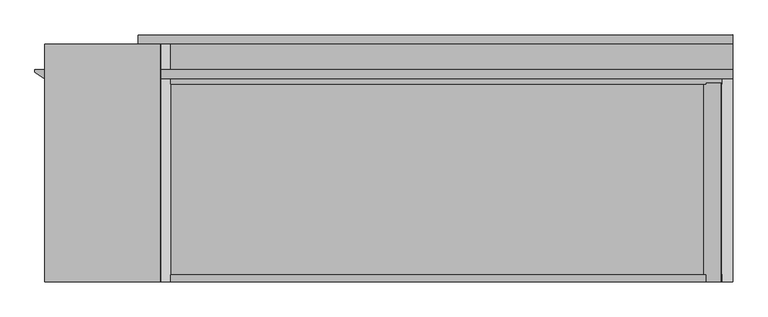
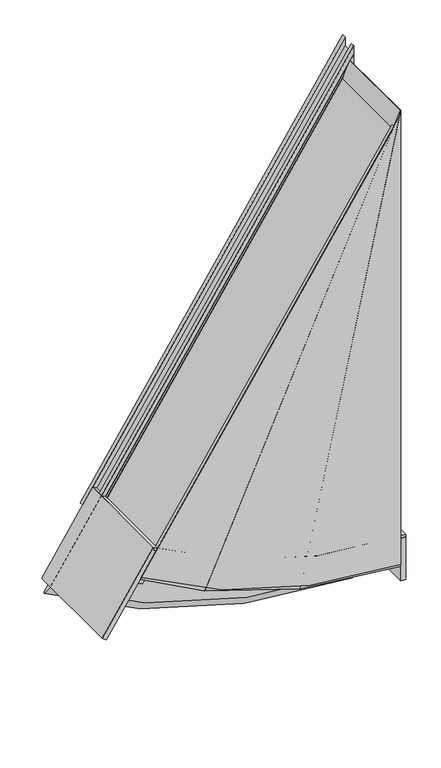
"""IFC4 building model written with IfcOpenShell, lengths in millimetres: proxy geometry, VIEWLINE^TABLE 5_OUT RADIUS TURRET-RT UNIT ASSEMBLY."""

from ifc_helpers import new_model, si_unit, point, frame, frame_2d, origin, place, context, project, spatial, polyline, circle_curve, trimmed, segment, composite_curve, outline, extrude, source, transform, mapped, element, save
from ifc_brep_helpers import plane_surface, cylinder_surface, revolved_surface, advanced_brep


def generic_models_eace9078(model_context):
    return source(origin(), model_context, "Body", "SolidModel", [
        extrude(outline(composite_curve([segment(polyline([(-151.8909718, 2400.3), (3618.4287601, 2400.3), (458.3714523, 343.7619644)]), True, "CONTINUOUS"), segment(trimmed(circle_curve(frame_2d((3746.8228674, 2438.4)), 3898.9), [point((458.3714523, 343.7619644))], [point((-151.8909718, 2400.3))], False, "CARTESIAN"), True, "CONTINUOUS")], self_intersect=False)), frame((0.0, -831.85, 0.0), z_axis=(0.0, 1.0, 0.0), x_axis=(0.0, 0.0, 1.0)), (0.0, 0.0, 1.0), 25.4),
        extrude(outline(composite_curve([segment(polyline([(-291.7771326, 2400.3), (-291.7771326, 2438.4), (63.8228674, 2438.4)]), True, "CONTINUOUS"), segment(trimmed(circle_curve(frame_2d((3746.8228674, 2438.4)), 3683.0), [point((63.8228674, 2438.4))], [point((64.0199417, 2400.3))], True, "CARTESIAN"), True, "CONTINUOUS"), segment(polyline([(64.0199417, 2400.3), (-291.7771326, 2400.3)]), True, "CONTINUOUS")], self_intersect=False)), frame((0.0, -831.85, 0.0), z_axis=(0.0, 1.0, 0.0), x_axis=(0.0, 0.0, 1.0)), (0.0, 0.0, 1.0), 831.85),
        extrude(outline(polyline([(-61.341, 33.401), (61.341, 33.401), (61.341, -33.401), (-61.341, -33.401), (-61.341, 33.401)])), frame((1253.2886081, -50.165, 130.8384344), z_axis=(0.3114421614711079, 0.0, 0.9502651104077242), x_axis=(-0.9502651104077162, 0.0, 0.3114421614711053)), (0.0, 0.0, 1.0), 1.5875),
        extrude(outline(polyline([(51.4350001, 21.59), (51.4350001, -21.59), (-51.435, -21.59), (-51.435, 21.59), (51.4350001, 21.59)])), frame((1253.2886081, -50.165, 130.8384344), z_axis=(0.3114421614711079, 0.0, 0.9502651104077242), x_axis=(-0.9502651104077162, 0.0, 0.3114421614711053)), (0.0, 0.0, 1.0), 74.549),
        extrude(outline(composite_curve([segment(polyline([(3676.9728674, 2438.4), (538.2082333, 395.7190528)]), True, "CONTINUOUS"), segment(trimmed(circle_curve(frame_2d((3746.8228674, 2438.4)), 3803.65), [point((538.2082333, 395.7190528))], [point((-56.8271326, 2438.4))], False, "CARTESIAN"), True, "CONTINUOUS"), segment(polyline([(-56.8271326, 2438.4), (3676.9728674, 2438.4)]), True, "CONTINUOUS")], self_intersect=False)), frame((0.0, -120.65, 0.0), z_axis=(0.0, 1.0, 0.0), x_axis=(0.0, 0.0, 1.0)), (0.0, 0.0, 1.0), 120.65),
        extrude(outline(composite_curve([segment(polyline([(3618.4287601, 2400.3), (458.3714523, 343.7619644)]), True, "CONTINUOUS"), segment(trimmed(circle_curve(frame_2d((3746.8228674, 2438.4)), 3898.9), [point((458.3714523, 343.7619644))], [point((-151.8909718, 2400.3))], False, "CARTESIAN"), True, "CONTINUOUS"), segment(polyline([(-151.8909718, 2400.3), (3618.4287601, 2400.3)]), True, "CONTINUOUS")], self_intersect=False)), frame((0.0, -139.7, 0.0), z_axis=(0.0, 1.0, 0.0), x_axis=(0.0, 0.0, 1.0)), (0.0, 0.0, 1.0), 19.05),
        extrude(outline(polyline([(-61.3409999, 33.401), (61.341, 33.401), (61.341, -33.401), (-61.3409999, -33.401), (-61.3409999, 33.401)])), frame((2021.3411731, -50.165, -35.4904943), z_axis=(0.10960126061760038, 0.0, 0.9939756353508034), x_axis=(-0.993975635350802, 0.0, 0.10960126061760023)), (0.0, 0.0, 1.0), 1.5875),
        extrude(outline(polyline([(51.4350001, 21.59), (51.4350001, -21.59), (-51.435, -21.59), (-51.435, 21.59), (51.4350001, 21.59)])), frame((2021.3411731, -50.165, -35.4904943), z_axis=(0.10960126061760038, 0.0, 0.9939756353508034), x_axis=(-0.993975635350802, 0.0, 0.10960126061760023)), (0.0, 0.0, 1.0), 74.549),
        extrude(outline(polyline([(-61.341, 33.401), (61.341, 33.401), (61.341, -33.401), (-61.341, -33.401), (-61.341, 33.401)])), frame((629.2577931, -50.165, 399.1614588), z_axis=(0.47543476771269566, 0.0, 0.8797509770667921), x_axis=(-0.8797509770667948, 0.0, 0.47543476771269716)), (0.0, 0.0, 1.0), 1.5875),
        extrude(outline(polyline([(51.435, 21.59), (51.435, -21.59), (-51.435, -21.59), (-51.435, 21.59), (51.435, 21.59)])), frame((629.2577931, -50.165, 399.1614588), z_axis=(0.47543476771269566, 0.0, 0.8797509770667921), x_axis=(-0.8797509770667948, 0.0, 0.47543476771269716)), (0.0, 0.0, 1.0), 74.549),
        extrude(outline(composite_curve([segment(polyline([(32.4400975, 66.5695131), (639.3351128, 461.5315536)]), True, "CONTINUOUS"), segment(trimmed(circle_curve(frame_2d((3746.8228674, 2438.4)), 3683.0), [point((639.3351128, 461.5315536))], [point((649.6021736, 445.4843035))], True, "CARTESIAN"), True, "CONTINUOUS"), segment(polyline([(649.6021736, 445.4843035), (675.9183298, 439.8818182), (53.2219157, 34.6363636), (32.4400975, 66.5695131)]), True, "CONTINUOUS")], self_intersect=False)), frame((0.0, -831.85, 0.0), z_axis=(0.0, 1.0, 0.0), x_axis=(0.0, 0.0, 1.0)), (0.0, 0.0, 1.0), 831.85),
        extrude(outline(polyline([(0.0, -425.4500001), (0.0, 0.0), (203.2, 0.0), (203.2, -63.5), (103.3342102, -63.5), (6.35, -425.4500001), (0.0, -425.4500001)])), frame((1675.7584297, -120.65, -12.1577801), z_axis=(-0.9781476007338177, 0.0, 0.20791169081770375), x_axis=(0.0, -1.0000000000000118, 0.0)), (0.0, 0.0, 1.0), 57.15),
        advanced_brep(
        [(2438.4, -88.9, 3746.8228674), (0.0, -88.9, 0.0), (0.0, -98.425, 0.0), (33.3069194, -120.65, 51.1791041), (2438.4, -120.65, 3746.8228674), (2438.4, -88.9, -723.5771326), (2438.4, -120.65, -662.5144469), (2438.4, -98.425, -723.5771326)],
        [
            (0, 1),
            (1, 2),
            (2, 3),
            (3, 4),
            (4, 0),
            (0, 5),
            (5, 1, circle_curve(frame((2438.4, -88.9, 3746.8228674), z_axis=(0.0, 1.0, 0.0), x_axis=(0.0, 0.0, -1.0)), 4470.4)),
            (3, 6, circle_curve(frame((2438.4, -120.65, 3746.8228674), z_axis=(0.0, -1.0, 0.0), x_axis=(0.0, 0.0, -1.0)), 4409.3373144)),
            (6, 4),
            (2, 7, circle_curve(frame((2438.4, -98.425, 3746.8228674), z_axis=(0.0, -1.0, 0.0), x_axis=(0.0, 0.0, -1.0)), 4470.4)),
            (7, 6),
            (7, 5),
        ],
        [
            plane_surface(frame((0.0, -120.65, 0.0), z_axis=(-0.8381404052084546, 0.0, 0.5454545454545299), x_axis=(0.5454545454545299, 0.0, 0.8381404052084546))),
            plane_surface(frame((1219.2, -88.9, -82.3735087), z_axis=(0.0, 1.0, 0.0), x_axis=(0.0, 0.0, 1.0))),
            plane_surface(frame((1219.2, -120.65, -82.3735087), z_axis=(0.0, -1.0, 0.0), x_axis=(0.0, 0.0, 1.0))),
            revolved_surface(polyline([(33.30691944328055, -120.65000000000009, 51.17910408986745), (0.0, -98.42499999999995, 0.0)]), (2438.4, -1725.5175353, 3746.8228674), (0.0, 1.0, 0.0)),
            plane_surface(frame((2438.4, -120.65, -56.8271326), z_axis=(1.0, 0.0, 0.0), x_axis=(0.0, 0.0, -1.0))),
            cylinder_surface(frame((2438.4, -120.65, 3746.8228674), z_axis=(0.0, 1.0, 0.0), x_axis=(0.0, 0.0, -1.0)), 4470.4),
        ],
        [
            (0, [[1, 2, 3, 4, 5]]),
            (1, [[-1, 6, 7]]),
            (2, [[-4, 8, 9]]),
            (3, [[-3, 10, 11, -8]]),
            (4, [[-11, 12, -6, -5, -9]]),
            (5, [[-10, -2, -7, -12]]),
        ],
    ),
        extrude(outline(polyline([(0.0, -425.45), (0.0, 0.0), (203.2, 0.0), (203.2, -63.5), (103.3342102, -63.5), (6.35, -425.45), (0.0, -425.45)])), frame((930.6114021, -120.65, 219.76562), z_axis=(-0.913545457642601, 0.0, 0.40673664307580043), x_axis=(0.0, -1.0000000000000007, 0.0)), (0.0, 0.0, 1.0), 57.15),
        extrude(outline(composite_curve([segment(polyline([(675.9183298, 439.8818182), (649.6021736, 445.4843035)]), True, "CONTINUOUS"), segment(trimmed(circle_curve(frame_2d((3746.8228674, 2438.4)), 3683.0), [point((649.6021736, 445.4843035))], [point((63.8228674, 2438.4))], False, "CARTESIAN"), True, "CONTINUOUS"), segment(polyline([(63.8228674, 2438.4), (82.8728674, 2438.4)]), True, "CONTINUOUS"), segment(trimmed(circle_curve(frame_2d((3746.8228674, 2438.4)), 3663.95), [point((82.8728674, 2438.4))], [point((675.9183298, 439.8818182))], True, "CARTESIAN"), True, "CONTINUOUS")], self_intersect=False)), frame((0.0, -831.85, 0.0), z_axis=(0.0, 1.0, 0.0), x_axis=(0.0, 0.0, 1.0)), (0.0, 0.0, 1.0), 831.85),
        extrude(outline(composite_curve([segment(polyline([(-170.926117, 2398.7125), (3651.7332992, 2398.7125), (-81.5045061, 1605.1883082)]), True, "CONTINUOUS"), segment(trimmed(circle_curve(frame_2d((3746.8228674, 2438.4)), 3917.95), [point((-81.5045061, 1605.1883082))], [point((-170.926117, 2398.7125))], False, "CARTESIAN"), True, "CONTINUOUS")], self_intersect=False)), frame((0.0, -831.85, 0.0), z_axis=(0.0, 1.0, 0.0), x_axis=(0.0, 0.0, 1.0)), (0.0, 0.0, 1.0), 695.325),
        extrude(outline(composite_curve([segment(polyline([(-81.1665815, 1603.6371706), (3648.6749296, 2396.4394578), (166.9520411, 846.2765535)]), True, "CONTINUOUS"), segment(trimmed(circle_curve(frame_2d((3746.8228674, 2438.4)), 3917.95), [point((166.9520411, 846.2765535))], [point((-81.1665815, 1603.6371706))], False, "CARTESIAN"), True, "CONTINUOUS")], self_intersect=False)), frame((0.0, -831.85, 0.0), z_axis=(0.0, 1.0, 0.0), x_axis=(0.0, 0.0, 1.0)), (0.0, 0.0, 1.0), 695.325),
        extrude(outline(composite_curve([segment(polyline([(3746.8228674, 2438.4), (553.5079236, 360.2181818)]), True, "CONTINUOUS"), segment(trimmed(circle_curve(frame_2d((3746.8228674, 2438.4)), 3810.0), [point((553.5079236, 360.2181818))], [point((-63.1771326, 2438.4))], False, "CARTESIAN"), True, "CONTINUOUS"), segment(polyline([(-63.1771326, 2438.4), (3746.8228674, 2438.4)]), True, "CONTINUOUS")], self_intersect=False)), frame((0.0, 0.0, 0.0), z_axis=(0.0, 1.0, 0.0), x_axis=(0.0, 0.0, 1.0)), (0.0, 0.0, 1.0), 31.75),
        extrude(outline(composite_curve([segment(polyline([(167.5974417, 844.8261693), (3516.4705018, 2335.8405191), (441.5514189, 334.7097058)]), True, "CONTINUOUS"), segment(trimmed(circle_curve(frame_2d((3746.8228674, 2438.4)), 3917.95), [point((441.5514189, 334.7097058))], [point((167.5974417, 844.8261693))], False, "CARTESIAN"), True, "CONTINUOUS")], self_intersect=False)), frame((0.0, -831.85, 0.0), z_axis=(0.0, 1.0, 0.0), x_axis=(0.0, 0.0, 1.0)), (0.0, 0.0, 1.0), 695.325),
    ])


if __name__ == "__main__":
    model = new_model("IFC4")
    model_context = context("Model", 3, world=origin())
    ifc_project = project(units=[si_unit("LENGTHUNIT", "METRE", prefix="MILLI")], contexts=[model_context])
    site = spatial("IfcSite", under=ifc_project)
    building = spatial("IfcBuilding", under=site)
    placement = place(None, origin())
    generic_models_shape = generic_models_eace9078(model_context)
    element("IfcBuildingElementProxy", 1, Name="VIEWLINE^TABLE 5_OUT RADIUS TURRET-RT UNIT ASSEMBLY", ObjectType="VIEWLINE^TABLE 5_OUT RADIUS TURRET-RT UNIT ASSEMBLY", at=placement, inside=building, context=model_context, shape_type="MappedRepresentation", body=[
        mapped(generic_models_shape, transform((0.0, 0.0, 0.0), x_axis=(1.0, 0.0, 0.0), y_axis=(0.0, 1.0, 0.0), z_axis=(0.0, 0.0, 1.0))),
    ])
    save(model, "model.ifc")
